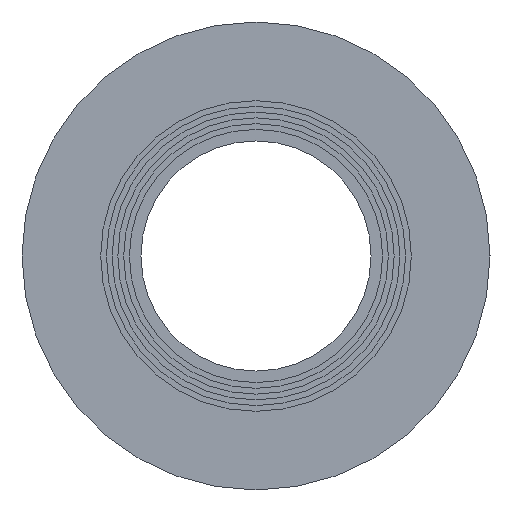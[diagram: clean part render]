
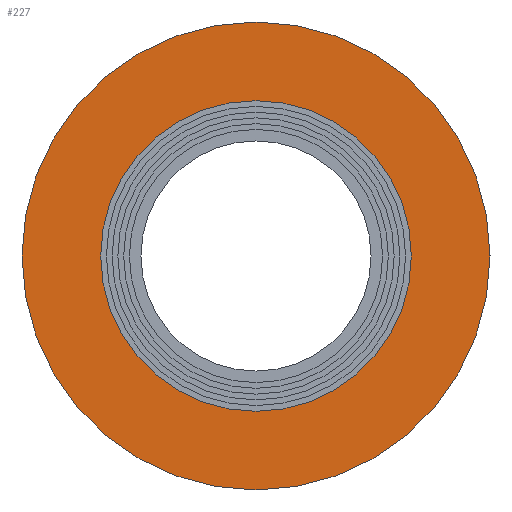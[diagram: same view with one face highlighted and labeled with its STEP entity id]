
A CAD part, left-side view. The second image highlights one B-rep face of the part: STEP entity #227.
In plain terms, the highlighted planar face has unit normal (-1, 0, 0).
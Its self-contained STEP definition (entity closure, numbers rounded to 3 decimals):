
#19=PLANE('',#265);
#45=FACE_BOUND('',#98,.T.);
#65=FACE_OUTER_BOUND('',#97,.T.);
#97=EDGE_LOOP('',(#197));
#98=EDGE_LOOP('',(#198));
#128=CIRCLE('',#263,40.5);
#129=CIRCLE('',#266,61.);
#148=VERTEX_POINT('',#401);
#149=VERTEX_POINT('',#405);
#168=EDGE_CURVE('',#148,#148,#128,.T.);
#169=EDGE_CURVE('',#149,#149,#129,.T.);
#197=ORIENTED_EDGE('',*,*,#169,.F.);
#198=ORIENTED_EDGE('',*,*,#168,.T.);
#227=ADVANCED_FACE('',(#65,#45),#19,.T.);
#263=AXIS2_PLACEMENT_3D('',#402,#331,#332);
#265=AXIS2_PLACEMENT_3D('',#404,#335,#336);
#266=AXIS2_PLACEMENT_3D('',#406,#337,#338);
#331=DIRECTION('center_axis',(1.,0.,0.));
#332=DIRECTION('ref_axis',(0.,0.,-1.));
#335=DIRECTION('center_axis',(-1.,0.,0.));
#336=DIRECTION('ref_axis',(0.,0.,1.));
#337=DIRECTION('center_axis',(1.,0.,0.));
#338=DIRECTION('ref_axis',(0.,0.,-1.));
#401=CARTESIAN_POINT('',(-130.,0.,40.5));
#402=CARTESIAN_POINT('Origin',(-130.,0.,0.));
#404=CARTESIAN_POINT('Origin',(-130.,61.,0.));
#405=CARTESIAN_POINT('',(-130.,61.,0.));
#406=CARTESIAN_POINT('Origin',(-130.,0.,0.));
